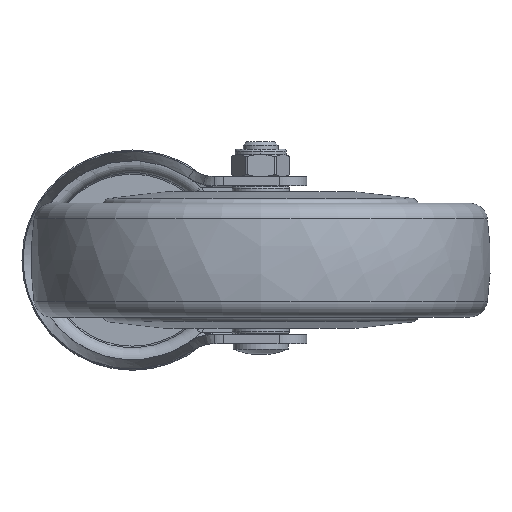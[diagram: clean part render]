
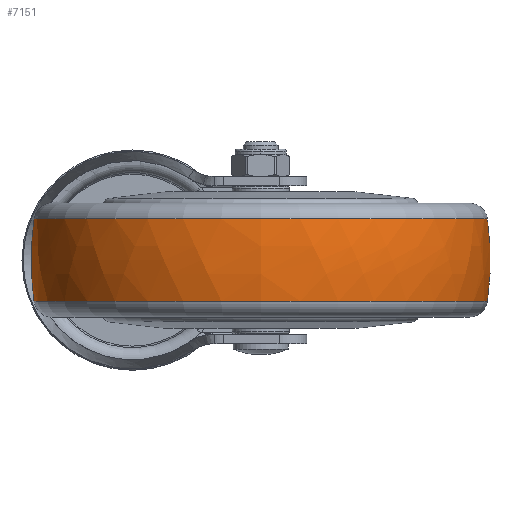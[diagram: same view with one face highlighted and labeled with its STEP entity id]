
A CAD part, front view. The second image highlights one B-rep face of the part: STEP entity #7151.
In plain terms, the highlighted free-form (B-spline) face has degree [3, 3] with [7, 4] control points.
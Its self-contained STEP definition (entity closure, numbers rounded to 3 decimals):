
#6602=CARTESIAN_POINT('',(11.2,0.,0.));
#6603=DIRECTION('',(-1.,0.,0.));
#6604=DIRECTION('',(0.,1.,0.));
#6605=AXIS2_PLACEMENT_3D('',#6602,#6603,#6604);
#6607=CARTESIAN_POINT('',(0.,-17.482,0.));
#6608=DIRECTION('',(0.,0.,1.));
#6609=DIRECTION('',(0.14,0.99,0.));
#6610=AXIS2_PLACEMENT_3D('',#6607,#6608,#6609);
#6617=CARTESIAN_POINT('',(0.,17.482,0.));
#6618=DIRECTION('',(0.,0.,-1.));
#6619=DIRECTION('',(0.14,-0.99,0.));
#6620=AXIS2_PLACEMENT_3D('',#6617,#6618,#6619);
#6829=CARTESIAN_POINT('',(-11.2,0.,0.));
#6830=DIRECTION('',(-1.,0.,0.));
#6831=DIRECTION('',(0.,1.,0.));
#6832=AXIS2_PLACEMENT_3D('',#6829,#6830,#6831);
#7016=CARTESIAN_POINT('',(11.2,61.73,0.));
#7017=CARTESIAN_POINT('',(-11.2,61.73,0.));
#7018=VERTEX_POINT('',#7016);
#7019=VERTEX_POINT('',#7017);
#7064=CARTESIAN_POINT('',(11.2,-61.73,
0.));
#7065=CARTESIAN_POINT('',(-11.2,-61.73,
0.));
#7066=VERTEX_POINT('',#7064);
#7067=VERTEX_POINT('',#7065);
#7112=CARTESIAN_POINT('',(11.645,61.544,3.872));
#7113=CARTESIAN_POINT('',(3.909,62.68,3.943));
#7114=CARTESIAN_POINT('',(-3.909,62.68,3.943));
#7115=CARTESIAN_POINT('',(-11.645,61.544,3.872));
#7116=CARTESIAN_POINT('',(11.645,63.927,-34.002));
#7117=CARTESIAN_POINT('',(3.909,65.107,-34.63));
#7118=CARTESIAN_POINT('',(-3.909,65.107,
-34.63));
#7119=CARTESIAN_POINT('',(-11.645,63.927,
-34.002));
#7120=CARTESIAN_POINT('',(11.645,37.949,-61.666));
#7121=CARTESIAN_POINT('',(3.909,38.649,-62.804));
#7122=CARTESIAN_POINT('',(-3.909,38.649,
-62.804));
#7123=CARTESIAN_POINT('',(-11.645,37.949,
-61.666));
#7124=CARTESIAN_POINT('',(11.645,0.,-61.666));
#7125=CARTESIAN_POINT('',(3.909,0.,-62.804));
#7126=CARTESIAN_POINT('',(-3.909,0.,-62.804));
#7127=CARTESIAN_POINT('',(-11.645,0.,
-61.666));
#7128=CARTESIAN_POINT('',(11.645,-37.949,
-61.666));
#7129=CARTESIAN_POINT('',(3.909,-38.649,
-62.804));
#7130=CARTESIAN_POINT('',(-3.909,-38.649,
-62.804));
#7131=CARTESIAN_POINT('',(-11.645,-37.949,
-61.666));
#7132=CARTESIAN_POINT('',(11.645,-63.927,
-34.002));
#7133=CARTESIAN_POINT('',(3.909,-65.107,
-34.63));
#7134=CARTESIAN_POINT('',(-3.909,-65.107,
-34.63));
#7135=CARTESIAN_POINT('',(-11.645,-63.927,
-34.002));
#7136=CARTESIAN_POINT('',(11.645,-61.544,3.872));
#7137=CARTESIAN_POINT('',(3.909,-62.68,3.943));
#7138=CARTESIAN_POINT('',(-3.909,-62.68,
3.943));
#7139=CARTESIAN_POINT('',(-11.645,-61.544,
3.872));
#7140=(BOUNDED_SURFACE()B_SPLINE_SURFACE(3,3,((#7112,#7113,#7114,#7115),(#7116,
#7117,#7118,#7119),(#7120,#7121,#7122,#7123),(#7124,#7125,#7126,#7127),(#7128,
#7129,#7130,#7131),(#7132,#7133,#7134,#7135),(#7136,#7137,#7138,#7139)),
.UNSPECIFIED.,.F.,.F.,.F.)B_SPLINE_SURFACE_WITH_KNOTS((4,3,4),(4,4),(0.,1.,
2.),(0.,1.),.UNSPECIFIED.)GEOMETRIC_REPRESENTATION_ITEM()RATIONAL_B_SPLINE_SURFACE(((1.194,1.185,1.185,1.194),(
0.943,0.936,0.936,0.943),(
0.943,0.936,0.936,0.943),(
1.194,1.185,1.185,1.194),(
0.943,0.936,0.936,0.943),(
0.943,0.936,0.936,0.943),(
1.194,1.185,1.185,1.194)))REPRESENTATION_ITEM('')SURFACE());
#7142=ORIENTED_EDGE('',*,*,#7141,.T.);
#7144=ORIENTED_EDGE('',*,*,#7143,.T.);
#7146=ORIENTED_EDGE('',*,*,#7145,.F.);
#7148=ORIENTED_EDGE('',*,*,#7147,.F.);
#7149=EDGE_LOOP('',(#7142,#7144,#7146,#7148));
#7150=FACE_OUTER_BOUND('',#7149,.F.);
#6606=CIRCLE('',#6605,61.73);
#6611=CIRCLE('',#6610,80.);
#6621=CIRCLE('',#6620,80.);
#6833=CIRCLE('',#6832,61.73);
#7141=EDGE_CURVE('',#7018,#7019,#6611,.T.);
#7143=EDGE_CURVE('',#7019,#7067,#6833,.T.);
#7145=EDGE_CURVE('',#7066,#7067,#6621,.T.);
#7147=EDGE_CURVE('',#7018,#7066,#6606,.T.);
#7151=ADVANCED_FACE('',(#7150),#7140,.T.);
